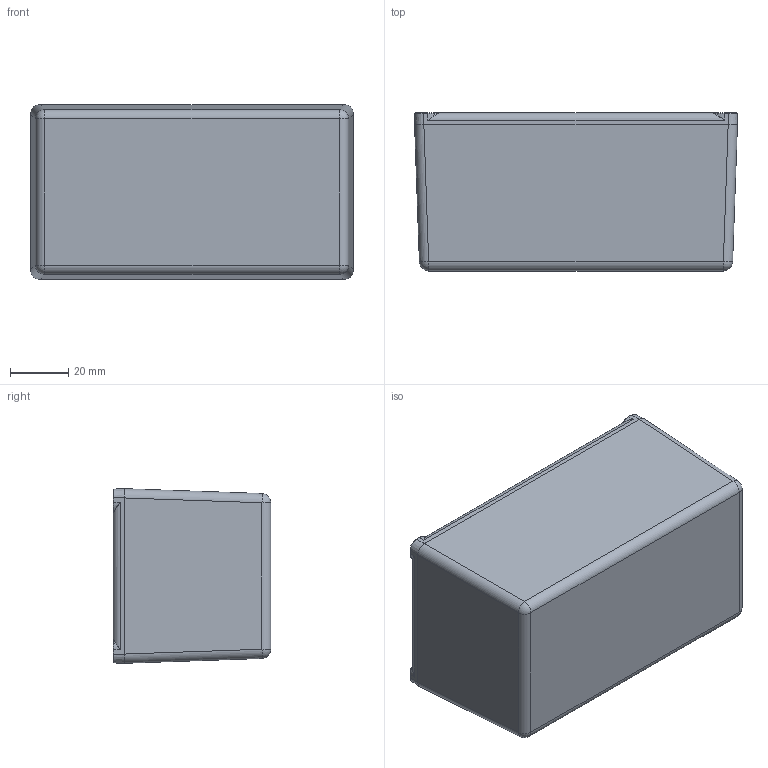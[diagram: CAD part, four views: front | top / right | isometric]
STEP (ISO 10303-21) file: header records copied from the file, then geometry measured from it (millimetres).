
FILE_DESCRIPTION (( 'STEP AP203' ), '1' );
FILE_NAME ('AL-79P-01.step', '2017-12-21T14:18:12', ( '' ), ( '' ), 'SwSTEP 2.0', 'SolidWorks 2016', '' );
FILE_SCHEMA (( 'CONFIG_CONTROL_DESIGN' ));
Length unit declared in the file: inch
Products named in the file (4): AL-xxC_AL-24C-01; AL-79P-01; AL-xxB_AL-79BP-01; flat head screw_ai_SCREWS-045
Assembly tree (6 placements, depth 2):
  AL-79P-01
    AL-xxB_AL-79BP-01
    AL-xxC_AL-24C-01
    flat head screw_ai_SCREWS-045  x4
Bounding box: 110.74 x 54.13 x 59.89 mm (x, y, z)
Volume: 59361.2 mm3; surface area: 60676.2 mm2
Topology: 6 solids, 6 shells, 311 faces, 748 edges, 432 vertices
Faces by surface type: plane 115, cylinder 104, cone 44, bspline 32, torus 12, sphere 4
Entity records: 8384 total; most frequent: CARTESIAN_POINT 2459, ORIENTED_EDGE 1188, DIRECTION 1088, EDGE_CURVE 594, AXIS2_PLACEMENT_3D 389, VERTEX_POINT 360, VECTOR 310, LINE 310
